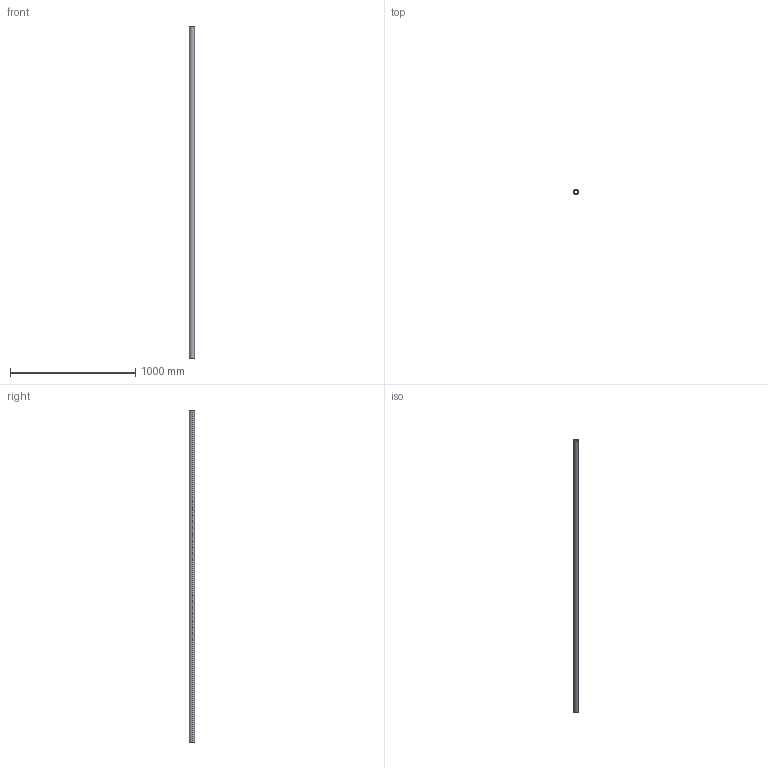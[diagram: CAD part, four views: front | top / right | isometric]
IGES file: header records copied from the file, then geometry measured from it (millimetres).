
Start section: SolidWorks IGES file using analytic representation for surfaces
Global section: file name: C:\Users\IanO\Desktop\L1771_v2\L1771.40_v2\L1771.40_v2_20230705_IGES\L1771.40-2650.igs; native system: SolidWorks 2019; preprocessor: SolidWorks 2019; author: IanO; date: 230705.161401; units: millimetre
Bounding box: 40 x 40 x 2650 mm (x, y, z)
Surface area: 567396.8 mm2 (no closed solid volume)
Topology: 0 solids, 0 shells, 6 faces, 272 edges, 272 vertices
Faces by surface type: revolution 4, bspline 2
